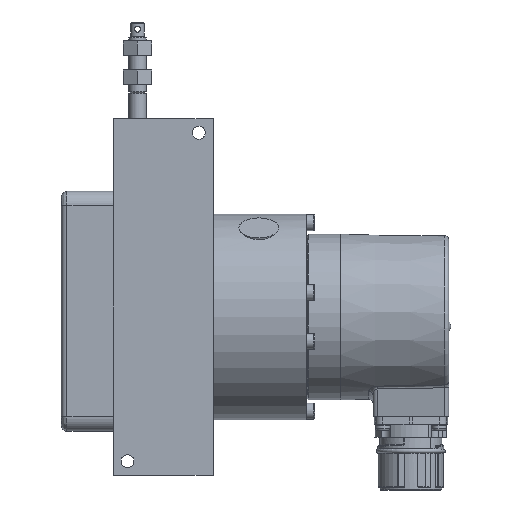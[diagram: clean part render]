
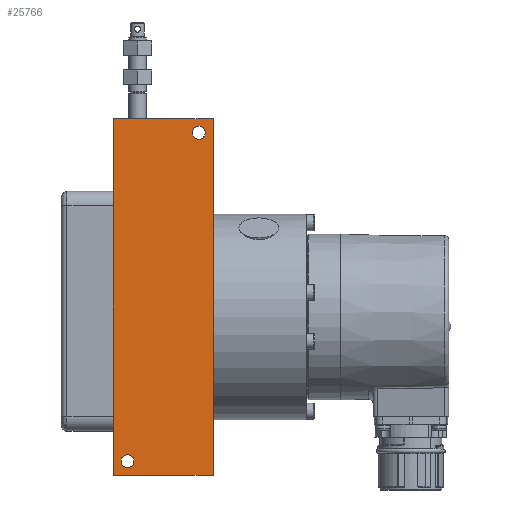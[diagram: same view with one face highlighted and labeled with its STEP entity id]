
A CAD part, front view. The second image highlights one B-rep face of the part: STEP entity #25766.
In plain terms, the highlighted planar face has unit normal (0, -1, 0).
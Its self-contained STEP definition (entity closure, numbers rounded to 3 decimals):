
#216 = CARTESIAN_POINT ( 'NONE',  ( 53.2, -45., -55.5 ) ) ;
#319 = CARTESIAN_POINT ( 'NONE',  ( 20.95, -45., -50.5 ) ) ;
#2139 = CARTESIAN_POINT ( 'NONE',  ( 23.2, -45., -50.5 ) ) ;
#2447 = VERTEX_POINT ( 'NONE', #38606 ) ;
#4435 = LINE ( 'NONE', #16434, #20532 ) ;
#4440 = CARTESIAN_POINT ( 'NONE',  ( 204.362, -45., 69.5 ) ) ;
#5218 = DIRECTION ( 'NONE',  ( -1., 0., 0. ) ) ;
#5339 = CARTESIAN_POINT ( 'NONE',  ( 45.95, -45., 64.5 ) ) ;
#7912 = EDGE_CURVE ( 'NONE', #9894, #9894, #27273, .T. ) ;
#9894 = VERTEX_POINT ( 'NONE', #5339 ) ;
#11029 = CIRCLE ( 'NONE', #30064, 2.25 ) ;
#12010 = ORIENTED_EDGE ( 'NONE', *, *, #37283, .F. ) ;
#12423 = AXIS2_PLACEMENT_3D ( 'NONE', #32095, #14144, #35116 ) ;
#12501 = ORIENTED_EDGE ( 'NONE', *, *, #38357, .F. ) ;
#14144 = DIRECTION ( 'NONE',  ( 0., -1., 0. ) ) ;
#14224 = LINE ( 'NONE', #24918, #30161 ) ;
#14269 = CARTESIAN_POINT ( 'NONE',  ( 18.2, -45., 69.5 ) ) ;
#15845 = DIRECTION ( 'NONE',  ( 0., 0., 1. ) ) ;
#16434 = CARTESIAN_POINT ( 'NONE',  ( 53.2, -45., 69.5 ) ) ;
#16507 = PLANE ( 'NONE',  #31805 ) ;
#17510 = EDGE_LOOP ( 'NONE', ( #31708 ) ) ;
#19473 = VECTOR ( 'NONE', #24546, 1000. ) ;
#19673 = DIRECTION ( 'NONE',  ( 1., 0., 0. ) ) ;
#20078 = EDGE_LOOP ( 'NONE', ( #12010 ) ) ;
#20532 = VECTOR ( 'NONE', #31330, 1000. ) ;
#21122 = VERTEX_POINT ( 'NONE', #14269 ) ;
#21175 = EDGE_CURVE ( 'NONE', #21122, #2447, #25971, .T. ) ;
#21536 = CARTESIAN_POINT ( 'NONE',  ( 204.362, -45., -55.5 ) ) ;
#23325 = DIRECTION ( 'NONE',  ( 0., -1., 0. ) ) ;
#23335 = EDGE_LOOP ( 'NONE', ( #35278, #27786, #28017, #12501 ) ) ;
#23485 = DIRECTION ( 'NONE',  ( 1., 0., 0. ) ) ;
#23603 = CARTESIAN_POINT ( 'NONE',  ( 204.362, -45., 69.5 ) ) ;
#24546 = DIRECTION ( 'NONE',  ( -1., 0., 0. ) ) ;
#24918 = CARTESIAN_POINT ( 'NONE',  ( 18.2, -45., 69.5 ) ) ;
#25029 = VECTOR ( 'NONE', #23485, 1000. ) ;
#25766 = ADVANCED_FACE ( 'NONE', ( #36925, #28995, #37871 ), #16507, .F. ) ;
#25796 = CARTESIAN_POINT ( 'NONE',  ( 18.2, -45., -55.5 ) ) ;
#25971 = LINE ( 'NONE', #23603, #25029 ) ;
#26752 = EDGE_CURVE ( 'NONE', #2447, #36309, #4435, .T. ) ;
#27273 = CIRCLE ( 'NONE', #12423, 2.25 ) ;
#27786 = ORIENTED_EDGE ( 'NONE', *, *, #21175, .F. ) ;
#28017 = ORIENTED_EDGE ( 'NONE', *, *, #33332, .F. ) ;
#28995 = FACE_BOUND ( 'NONE', #17510, .T. ) ;
#30064 = AXIS2_PLACEMENT_3D ( 'NONE', #2139, #23325, #5218 ) ;
#30161 = VECTOR ( 'NONE', #15845, 1000. ) ;
#31330 = DIRECTION ( 'NONE',  ( 0., 0., -1. ) ) ;
#31708 = ORIENTED_EDGE ( 'NONE', *, *, #7912, .F. ) ;
#31805 = AXIS2_PLACEMENT_3D ( 'NONE', #4440, #37530, #19673 ) ;
#32095 = CARTESIAN_POINT ( 'NONE',  ( 48.2, -45., 64.5 ) ) ;
#33332 = EDGE_CURVE ( 'NONE', #37806, #21122, #14224, .T. ) ;
#33458 = LINE ( 'NONE', #21536, #19473 ) ;
#35116 = DIRECTION ( 'NONE',  ( -1., 0., 0. ) ) ;
#35278 = ORIENTED_EDGE ( 'NONE', *, *, #26752, .F. ) ;
#36013 = VERTEX_POINT ( 'NONE', #319 ) ;
#36309 = VERTEX_POINT ( 'NONE', #216 ) ;
#36925 = FACE_OUTER_BOUND ( 'NONE', #23335, .T. ) ;
#37283 = EDGE_CURVE ( 'NONE', #36013, #36013, #11029, .T. ) ;
#37530 = DIRECTION ( 'NONE',  ( 0., 1., 0. ) ) ;
#37806 = VERTEX_POINT ( 'NONE', #25796 ) ;
#37871 = FACE_BOUND ( 'NONE', #20078, .T. ) ;
#38357 = EDGE_CURVE ( 'NONE', #36309, #37806, #33458, .T. ) ;
#38606 = CARTESIAN_POINT ( 'NONE',  ( 53.2, -45., 69.5 ) ) ;
